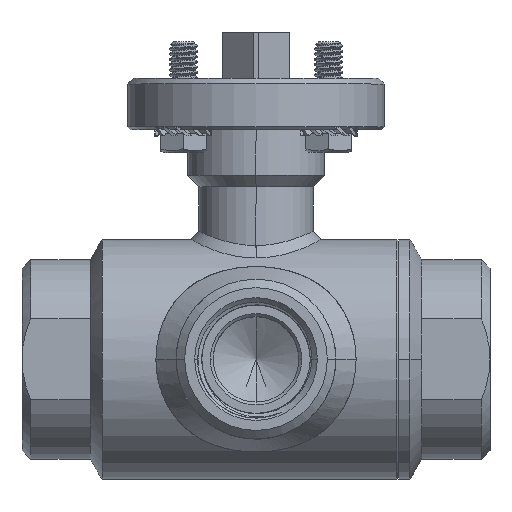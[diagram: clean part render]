
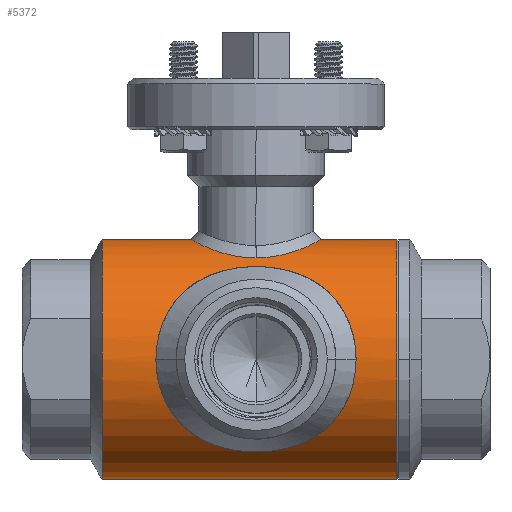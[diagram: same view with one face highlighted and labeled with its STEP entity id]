
A CAD part, top view. The second image highlights one B-rep face of the part: STEP entity #5372.
In plain terms, the highlighted cylindrical face has radius 21 mm (diameter 42 mm), a partial arc.
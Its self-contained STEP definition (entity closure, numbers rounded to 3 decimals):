
#90=DIRECTION('',(-1.,0.,0.));
#91=VECTOR('',#90,22.239);
#92=CARTESIAN_POINT('',(11.119,8.506,19.2));
#93=LINE('',#92,#91);
#94=CARTESIAN_POINT('',(-11.119,8.506,19.2));
#95=CARTESIAN_POINT('',(-11.57,7.918,19.461));
#96=CARTESIAN_POINT('',(-12.351,6.704,19.933));
#97=CARTESIAN_POINT('',(-13.2,4.809,20.473));
#98=CARTESIAN_POINT('',(-13.745,2.891,20.83));
#99=CARTESIAN_POINT('',(-14.011,0.964,21.007));
#100=CARTESIAN_POINT('',(-14.011,-0.964,
21.007));
#101=CARTESIAN_POINT('',(-13.745,-2.891,20.83));
#102=CARTESIAN_POINT('',(-13.2,-4.809,20.473));
#103=CARTESIAN_POINT('',(-12.351,-6.704,19.933));
#104=CARTESIAN_POINT('',(-11.57,-7.918,19.461));
#105=CARTESIAN_POINT('',(-11.119,-8.506,19.2));
#107=DIRECTION('',(1.,0.,0.));
#108=VECTOR('',#107,22.239);
#109=CARTESIAN_POINT('',(-11.119,-8.506,19.2));
#110=LINE('',#109,#108);
#111=CARTESIAN_POINT('',(11.119,-8.506,19.2));
#112=CARTESIAN_POINT('',(11.57,-7.918,19.461));
#113=CARTESIAN_POINT('',(12.351,-6.704,19.933));
#114=CARTESIAN_POINT('',(13.2,-4.809,20.473));
#115=CARTESIAN_POINT('',(13.745,-2.891,20.83));
#116=CARTESIAN_POINT('',(14.011,-0.964,21.007));
#117=CARTESIAN_POINT('',(14.011,0.964,21.007));
#118=CARTESIAN_POINT('',(13.745,2.891,20.83));
#119=CARTESIAN_POINT('',(13.2,4.809,20.473));
#120=CARTESIAN_POINT('',(12.351,6.704,19.933));
#121=CARTESIAN_POINT('',(11.57,7.918,19.461));
#122=CARTESIAN_POINT('',(11.119,8.506,19.2));
#124=CARTESIAN_POINT('',(24.7,0.,0.));
#125=DIRECTION('',(-1.,0.,0.));
#126=DIRECTION('',(0.,-1.,0.));
#127=AXIS2_PLACEMENT_3D('',#124,#125,#126);
#129=CARTESIAN_POINT('',(-10.,21.,0.));
#130=CARTESIAN_POINT('',(-10.,21.,0.536));
#131=CARTESIAN_POINT('',(-9.914,20.959,1.589));
#132=CARTESIAN_POINT('',(-9.547,20.787,3.107));
#133=CARTESIAN_POINT('',(-8.957,20.521,4.536));
#134=CARTESIAN_POINT('',(-8.149,20.179,5.866));
#135=CARTESIAN_POINT('',(-7.125,19.784,7.077));
#136=CARTESIAN_POINT('',(-5.905,19.374,8.124));
#137=CARTESIAN_POINT('',(-4.518,18.994,8.97));
#138=CARTESIAN_POINT('',(-3.037,18.695,9.571));
#139=CARTESIAN_POINT('',(-1.532,18.509,9.921));
#140=CARTESIAN_POINT('',(-0.021,18.446,10.038));
#141=CARTESIAN_POINT('',(1.492,18.506,9.927));
#142=CARTESIAN_POINT('',(2.999,18.688,9.583));
#143=CARTESIAN_POINT('',(4.482,18.985,8.988));
#144=CARTESIAN_POINT('',(5.872,19.364,8.148));
#145=CARTESIAN_POINT('',(7.1,19.775,7.103));
#146=CARTESIAN_POINT('',(8.133,20.172,5.889));
#147=CARTESIAN_POINT('',(8.947,20.516,4.555));
#148=CARTESIAN_POINT('',(9.543,20.785,3.122));
#149=CARTESIAN_POINT('',(9.914,20.959,1.597));
#150=CARTESIAN_POINT('',(10.,21.,0.539));
#151=CARTESIAN_POINT('',(10.,21.,0.));
#385=DIRECTION('',(-1.,0.,0.));
#386=VECTOR('',#385,14.7);
#387=CARTESIAN_POINT('',(24.7,21.,0.));
#388=LINE('',#387,#386);
#413=DIRECTION('',(-1.,0.,0.));
#414=VECTOR('',#413,16.979);
#415=CARTESIAN_POINT('',(-10.,21.,0.));
#416=LINE('',#415,#414);
#417=DIRECTION('',(-1.,0.,0.));
#418=VECTOR('',#417,51.679);
#419=CARTESIAN_POINT('',(24.7,-21.,0.));
#420=LINE('',#419,#418);
#1710=CARTESIAN_POINT('',(-26.979,0.,0.));
#1711=DIRECTION('',(1.,0.,0.));
#1712=DIRECTION('',(0.,1.,0.));
#1713=AXIS2_PLACEMENT_3D('',#1710,#1711,#1712);
#4745=CARTESIAN_POINT('',(-26.979,21.,0.));
#4747=VERTEX_POINT('',#4745);
#4749=CARTESIAN_POINT('',(-26.979,-21.,0.));
#4751=VERTEX_POINT('',#4749);
#4801=CARTESIAN_POINT('',(-11.119,8.506,19.2));
#4802=CARTESIAN_POINT('',(11.119,8.506,19.2));
#4803=VERTEX_POINT('',#4801);
#4804=VERTEX_POINT('',#4802);
#4805=CARTESIAN_POINT('',(-11.119,-8.506,19.2));
#4806=CARTESIAN_POINT('',(11.119,-8.506,19.2));
#4807=VERTEX_POINT('',#4805);
#4808=VERTEX_POINT('',#4806);
#4811=VERTEX_POINT('',#151);
#4812=VERTEX_POINT('',#129);
#4817=CARTESIAN_POINT('',(24.7,21.,0.));
#4818=CARTESIAN_POINT('',(24.7,-21.,0.));
#4819=VERTEX_POINT('',#4817);
#4820=VERTEX_POINT('',#4818);
#5343=CARTESIAN_POINT('',(-44.3,0.,0.));
#5344=DIRECTION('',(1.,0.,0.));
#5345=DIRECTION('',(0.,-1.,0.));
#5346=AXIS2_PLACEMENT_3D('',#5343,#5344,#5345);
#5347=CYLINDRICAL_SURFACE('',#5346,21.);
#5349=ORIENTED_EDGE('',*,*,#5348,.F.);
#5351=ORIENTED_EDGE('',*,*,#5350,.T.);
#5353=ORIENTED_EDGE('',*,*,#5352,.F.);
#5355=ORIENTED_EDGE('',*,*,#5354,.F.);
#5357=ORIENTED_EDGE('',*,*,#5356,.T.);
#5359=ORIENTED_EDGE('',*,*,#5358,.F.);
#5360=EDGE_LOOP('',(#5349,#5351,#5353,#5355,#5357,#5359));
#5361=FACE_OUTER_BOUND('',#5360,.F.);
#5363=ORIENTED_EDGE('',*,*,#5362,.T.);
#5365=ORIENTED_EDGE('',*,*,#5364,.T.);
#5367=ORIENTED_EDGE('',*,*,#5366,.T.);
#5369=ORIENTED_EDGE('',*,*,#5368,.T.);
#5370=EDGE_LOOP('',(#5363,#5365,#5367,#5369));
#5371=FACE_BOUND('',#5370,.F.);
#5372=ADVANCED_FACE('',(#5361,#5371),#5347,.T.);
#106=B_SPLINE_CURVE_WITH_KNOTS('',3,(#94,#95,#96,#97,#98,#99,#100,#101,#102,
#103,#104,#105),.UNSPECIFIED.,.F.,.F.,(4,1,1,1,1,1,1,1,1,4),(0.,
0.111,0.222,0.333,0.444,
0.556,0.667,0.778,0.889,1.),
.UNSPECIFIED.);
#123=B_SPLINE_CURVE_WITH_KNOTS('',3,(#111,#112,#113,#114,#115,#116,#117,#118,
#119,#120,#121,#122),.UNSPECIFIED.,.F.,.F.,(4,1,1,1,1,1,1,1,1,4),(0.,
0.111,0.222,0.333,0.444,
0.556,0.667,0.778,0.889,1.),
.UNSPECIFIED.);
#128=CIRCLE('',#127,21.);
#152=B_SPLINE_CURVE_WITH_KNOTS('',3,(#129,#130,#131,#132,#133,#134,#135,#136,
#137,#138,#139,#140,#141,#142,#143,#144,#145,#146,#147,#148,#149,#150,#151),
.UNSPECIFIED.,.F.,.F.,(4,1,1,1,1,1,1,1,1,1,1,1,1,1,1,1,1,1,1,1,4),(0.,0.05,
0.1,0.15,0.2,0.25,0.3,0.35,0.4,0.45,0.5,0.55,0.6,0.65,
0.7,0.75,0.8,0.85,0.9,0.95,1.),.UNSPECIFIED.);
#1714=CIRCLE('',#1713,21.);
#5348=EDGE_CURVE('',#4820,#4819,#128,.T.);
#5350=EDGE_CURVE('',#4820,#4751,#420,.T.);
#5352=EDGE_CURVE('',#4747,#4751,#1714,.T.);
#5354=EDGE_CURVE('',#4812,#4747,#416,.T.);
#5356=EDGE_CURVE('',#4812,#4811,#152,.T.);
#5358=EDGE_CURVE('',#4819,#4811,#388,.T.);
#5362=EDGE_CURVE('',#4804,#4803,#93,.T.);
#5364=EDGE_CURVE('',#4803,#4807,#106,.T.);
#5366=EDGE_CURVE('',#4807,#4808,#110,.T.);
#5368=EDGE_CURVE('',#4808,#4804,#123,.T.);
